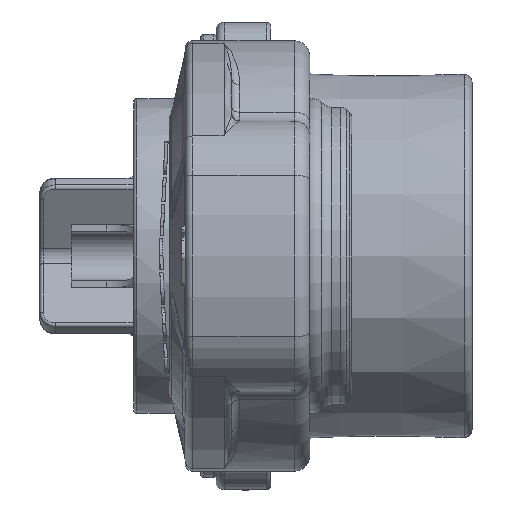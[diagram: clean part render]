
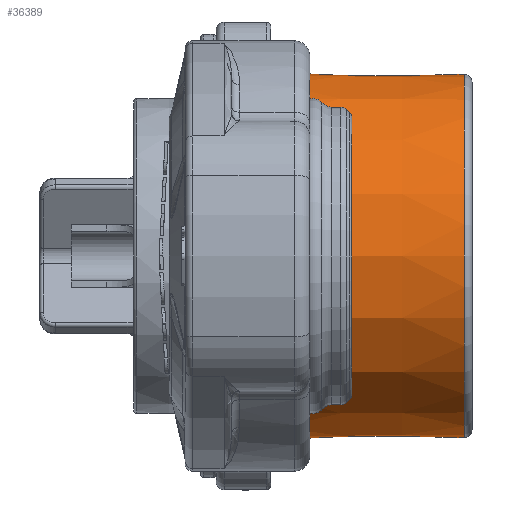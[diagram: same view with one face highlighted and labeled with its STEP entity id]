
A CAD part, front view. The second image highlights one B-rep face of the part: STEP entity #36389.
In plain terms, the highlighted conical face has half-angle 0.5 degrees and reference radius 11.65 mm.
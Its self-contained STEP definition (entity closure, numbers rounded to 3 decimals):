
#1205 = B_SPLINE_CURVE_WITH_KNOTS ( 'NONE', 3,
 ( #22125, #14989, #19018, #36421, #21878, #18324, #36661 ),
 .UNSPECIFIED., .F., .F.,
 ( 4, 3, 4 ),
 ( 0., 0.006, 0.012 ),
 .UNSPECIFIED. ) ;
#2023 = CARTESIAN_POINT ( 'NONE',  ( -0.496, 0., 0. ) ) ;
#2691 = CIRCLE ( 'NONE', #29295, 11.758 ) ;
#3515 = CARTESIAN_POINT ( 'NONE',  ( -0.496, 8.733, 7.718 ) ) ;
#6775 = CARTESIAN_POINT ( 'NONE',  ( -4.765, 8.752, -7.752 ) ) ;
#8473 = AXIS2_PLACEMENT_3D ( 'NONE', #2023, #30348, #22990 ) ;
#10080 = B_SPLINE_CURVE_WITH_KNOTS ( 'NONE', 3,
 ( #40100, #17474, #35808, #28886, #6775, #14131, #13663 ),
 .UNSPECIFIED., .F., .F.,
 ( 4, 3, 4 ),
 ( 0., 0.006, 0.012 ),
 .UNSPECIFIED. ) ;
#12744 = EDGE_CURVE ( 'NONE', #42753, #38401, #10080, .T. ) ;
#13663 = CARTESIAN_POINT ( 'NONE',  ( -0.496, 8.733, -7.718 ) ) ;
#14131 = CARTESIAN_POINT ( 'NONE',  ( -2.631, 8.742, -7.735 ) ) ;
#14778 = CARTESIAN_POINT ( 'NONE',  ( -12.404, 0., 0. ) ) ;
#14989 = CARTESIAN_POINT ( 'NONE',  ( -2.33, 8.741, 7.733 ) ) ;
#17474 = CARTESIAN_POINT ( 'NONE',  ( -10.57, 8.778, -7.8 ) ) ;
#17909 = VERTEX_POINT ( 'NONE', #23978 ) ;
#18298 = EDGE_CURVE ( 'NONE', #38401, #44979, #37358, .T. ) ;
#18324 = CARTESIAN_POINT ( 'NONE',  ( -10.269, 8.776, 7.797 ) ) ;
#18809 = DIRECTION ( 'NONE',  ( 0., 0., 1. ) ) ;
#19018 = CARTESIAN_POINT ( 'NONE',  ( -4.165, 8.749, 7.747 ) ) ;
#20819 = AXIS2_PLACEMENT_3D ( 'NONE', #37646, #30473, #34290 ) ;
#21878 = CARTESIAN_POINT ( 'NONE',  ( -8.135, 8.767, 7.78 ) ) ;
#22125 = CARTESIAN_POINT ( 'NONE',  ( -0.496, 8.733, 7.718 ) ) ;
#22176 = ORIENTED_EDGE ( 'NONE', *, *, #39365, .T. ) ;
#22990 = DIRECTION ( 'NONE',  ( 0., 0., -1. ) ) ;
#23978 = CARTESIAN_POINT ( 'NONE',  ( -12.404, 8.786, 7.814 ) ) ;
#28886 = CARTESIAN_POINT ( 'NONE',  ( -6.9, 8.761, -7.77 ) ) ;
#29295 = AXIS2_PLACEMENT_3D ( 'NONE', #14778, #33810, #18809 ) ;
#29759 = ORIENTED_EDGE ( 'NONE', *, *, #18298, .T. ) ;
#30348 = DIRECTION ( 'NONE',  ( -1., 0., 0. ) ) ;
#30473 = DIRECTION ( 'NONE',  ( -1., 0., 0. ) ) ;
#32639 = ORIENTED_EDGE ( 'NONE', *, *, #37652, .T. ) ;
#33810 = DIRECTION ( 'NONE',  ( 1., 0., 0. ) ) ;
#34290 = DIRECTION ( 'NONE',  ( 0., 0., 1. ) ) ;
#35279 = CONICAL_SURFACE ( 'NONE', #20819, 11.65, 0.009 ) ;
#35808 = CARTESIAN_POINT ( 'NONE',  ( -8.735, 8.77, -7.785 ) ) ;
#36389 = ADVANCED_FACE ( 'NONE', ( #38346 ), #35279, .T. ) ;
#36421 = CARTESIAN_POINT ( 'NONE',  ( -6., 8.757, 7.762 ) ) ;
#36661 = CARTESIAN_POINT ( 'NONE',  ( -12.404, 8.786, 7.814 ) ) ;
#36854 = CARTESIAN_POINT ( 'NONE',  ( -0.496, 8.733, -7.718 ) ) ;
#37358 = CIRCLE ( 'NONE', #8473, 11.654 ) ;
#37646 = CARTESIAN_POINT ( 'NONE',  ( 0., 0., 0. ) ) ;
#37652 = EDGE_CURVE ( 'NONE', #44979, #17909, #1205, .T. ) ;
#37941 = EDGE_LOOP ( 'NONE', ( #32639, #22176, #43259, #29759 ) ) ;
#38346 = FACE_OUTER_BOUND ( 'NONE', #37941, .T. ) ;
#38401 = VERTEX_POINT ( 'NONE', #36854 ) ;
#39365 = EDGE_CURVE ( 'NONE', #17909, #42753, #2691, .T. ) ;
#40100 = CARTESIAN_POINT ( 'NONE',  ( -12.404, 8.786, -7.814 ) ) ;
#42753 = VERTEX_POINT ( 'NONE', #43287 ) ;
#43259 = ORIENTED_EDGE ( 'NONE', *, *, #12744, .T. ) ;
#43287 = CARTESIAN_POINT ( 'NONE',  ( -12.404, 8.786, -7.814 ) ) ;
#44979 = VERTEX_POINT ( 'NONE', #3515 ) ;
